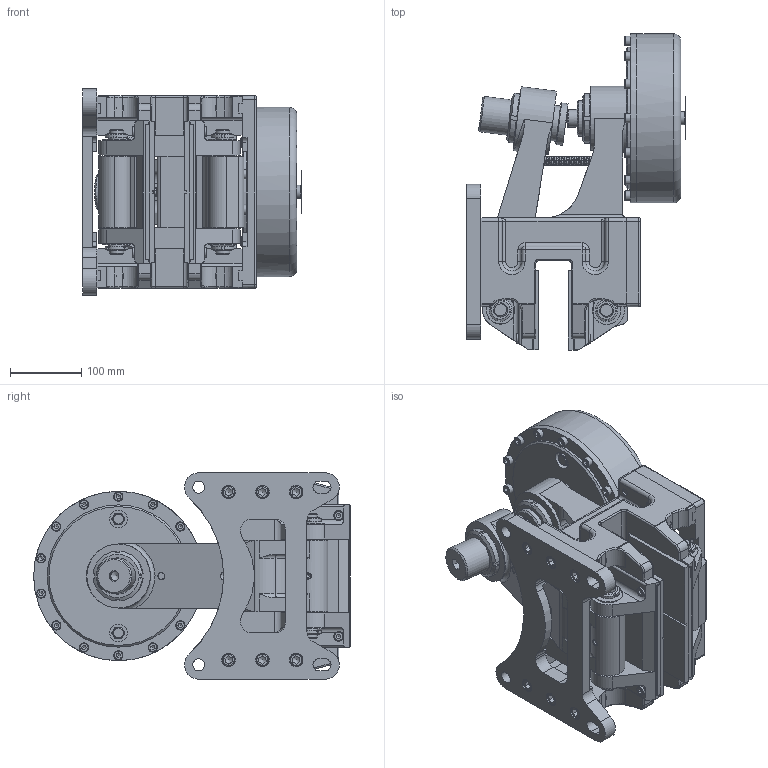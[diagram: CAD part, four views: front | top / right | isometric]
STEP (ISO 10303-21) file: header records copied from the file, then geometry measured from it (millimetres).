
FILE_DESCRIPTION(/* description */ ('','CAx-IF Rec.Pracs.---Representation and Presentation of Product Manufacturing Information (PMI)---4.0---2014-10-13'),/* implementation_level */ '2;1');
FILE_NAME(/* name */ 'X:\INVENTOR\DISEGNI\19_Pinze\STEP x Sito\PNEUM-POSITIVE\19_16_660_06 PPTP660_40.stp',/* time_stamp */ '2018-10-29T09:01:51+01:00',/* author */ ('stefano'),/* organization */ (''),/* preprocessor_version */ 'ST-DEVELOPER v17',/* originating_system */ 'Autodesk Inventor 2018',/* authorisation */ '');
FILE_SCHEMA (('AP242_MANAGED_MODEL_BASED_3D_ENGINEERING_MIM_LF { 1 0 10303 442 1 1 4 }'));
Length unit declared in the file: millimetre
Products named in the file (1): 19_16_660_06 PPTP660_40_Substitute_2
Bounding box: 307.1 x 445 x 290 mm (x, y, z)
Volume: 11099129.5 mm3; surface area: 1026812.5 mm2
Topology: 1 solids, 1 shells, 1569 faces, 4311 edges, 2811 vertices
Faces by surface type: plane 786, cylinder 432, torus 180, cone 126, bspline 29, sphere 16
Full cylindrical faces by diameter (mm): 1.8 x2, 2.5 x1, 3 x1, 5.188 x1, 6.647 x2, 7.4 x1, 7.5 x2, 8 x7, 8.376 x1, 8.5 x8, 8.917 x2, 9 x1, 9.188 x1, 10 x2, 10.106 x12, 10.5 x4, 12 x12, 12.5 x12, 13 x20, 13.5 x8, 14 x1, 16.5 x4, 17 x2, 18 x13, 18.631 x1, 19 x12, 20 x12, 22 x6, 25 x7, 28 x1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
Entity records: 59069 total; most frequent: CARTESIAN_POINT 17584, ORIENTED_EDGE 8510, DIRECTION 8456, EDGE_CURVE 4255, AXIS2_PLACEMENT_3D 3191, VERTEX_POINT 2811, LINE 2074, VECTOR 2074
